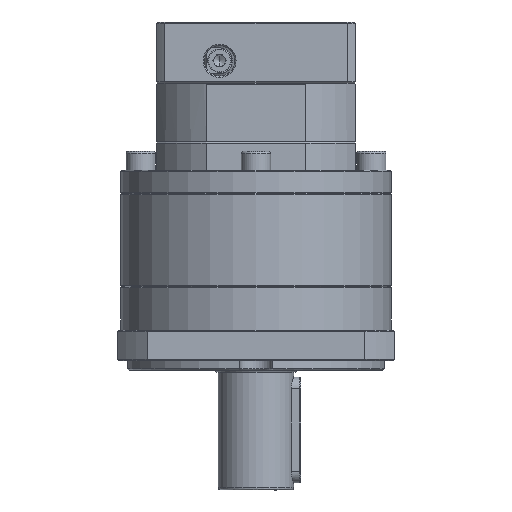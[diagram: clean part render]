
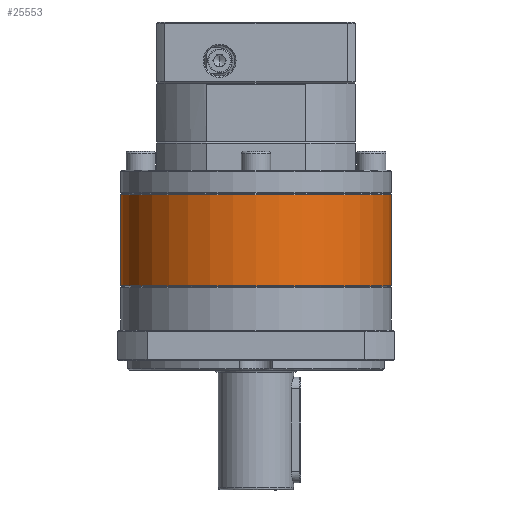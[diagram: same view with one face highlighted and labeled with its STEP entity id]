
A CAD part, front view. The second image highlights one B-rep face of the part: STEP entity #25553.
In plain terms, the highlighted cylindrical face has radius 57.5 mm (diameter 115 mm), a partial arc.
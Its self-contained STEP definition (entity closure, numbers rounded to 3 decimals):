
#1723 = VECTOR ( 'NONE', #47505, 1000. ) ;
#2789 = DIRECTION ( 'NONE',  ( 0., 0., -1. ) ) ;
#4413 = CARTESIAN_POINT ( 'NONE',  ( 122.124, 88.816, -109.035 ) ) ;
#6154 = CIRCLE ( 'NONE', #64461, 57.5 ) ;
#8489 = CARTESIAN_POINT ( 'NONE',  ( 122.124, 88.816, -70.324 ) ) ;
#9967 = CARTESIAN_POINT ( 'NONE',  ( 7.124, 88.816, -109.035 ) ) ;
#15633 = CIRCLE ( 'NONE', #57148, 57.5 ) ;
#16751 = FACE_OUTER_BOUND ( 'NONE', #54093, .T. ) ;
#20678 = LINE ( 'NONE', #63910, #105724 ) ;
#24757 = DIRECTION ( 'NONE',  ( -1., 0., 0. ) ) ;
#25553 = ADVANCED_FACE ( 'NONE', ( #16751 ), #76488, .T. ) ;
#37354 = DIRECTION ( 'NONE',  ( 0., 0., -1. ) ) ;
#38933 = ORIENTED_EDGE ( 'NONE', *, *, #56891, .T. ) ;
#39028 = ORIENTED_EDGE ( 'NONE', *, *, #51019, .F. ) ;
#43917 = VERTEX_POINT ( 'NONE', #94682 ) ;
#47063 = CARTESIAN_POINT ( 'NONE',  ( 64.624, 88.816, -69.824 ) ) ;
#47505 = DIRECTION ( 'NONE',  ( 0., 0., -1. ) ) ;
#48243 = AXIS2_PLACEMENT_3D ( 'NONE', #47063, #37354, #54899 ) ;
#48721 = VERTEX_POINT ( 'NONE', #9967 ) ;
#49373 = CARTESIAN_POINT ( 'NONE',  ( 64.624, 88.816, -70.324 ) ) ;
#51019 = EDGE_CURVE ( 'NONE', #57141, #53098, #93726, .T. ) ;
#53098 = VERTEX_POINT ( 'NONE', #4413 ) ;
#54093 = EDGE_LOOP ( 'NONE', ( #39028, #38933, #90198, #112028 ) ) ;
#54899 = DIRECTION ( 'NONE',  ( -1., 0., 0. ) ) ;
#56891 = EDGE_CURVE ( 'NONE', #57141, #43917, #6154, .T. ) ;
#57141 = VERTEX_POINT ( 'NONE', #8489 ) ;
#57148 = AXIS2_PLACEMENT_3D ( 'NONE', #87827, #106089, #24757 ) ;
#57490 = EDGE_CURVE ( 'NONE', #48721, #53098, #15633, .T. ) ;
#63910 = CARTESIAN_POINT ( 'NONE',  ( 7.124, 88.816, -69.824 ) ) ;
#64461 = AXIS2_PLACEMENT_3D ( 'NONE', #49373, #111711, #76609 ) ;
#68227 = EDGE_CURVE ( 'NONE', #43917, #48721, #20678, .T. ) ;
#73999 = CARTESIAN_POINT ( 'NONE',  ( 122.124, 88.816, -69.824 ) ) ;
#76488 = CYLINDRICAL_SURFACE ( 'NONE', #48243, 57.5 ) ;
#76609 = DIRECTION ( 'NONE',  ( -1., 0., 0. ) ) ;
#87827 = CARTESIAN_POINT ( 'NONE',  ( 64.624, 88.816, -109.035 ) ) ;
#90198 = ORIENTED_EDGE ( 'NONE', *, *, #68227, .T. ) ;
#93726 = LINE ( 'NONE', #73999, #1723 ) ;
#94682 = CARTESIAN_POINT ( 'NONE',  ( 7.124, 88.816, -70.324 ) ) ;
#105724 = VECTOR ( 'NONE', #2789, 1000. ) ;
#106089 = DIRECTION ( 'NONE',  ( 0., 0., 1. ) ) ;
#111711 = DIRECTION ( 'NONE',  ( 0., 0., -1. ) ) ;
#112028 = ORIENTED_EDGE ( 'NONE', *, *, #57490, .T. ) ;
